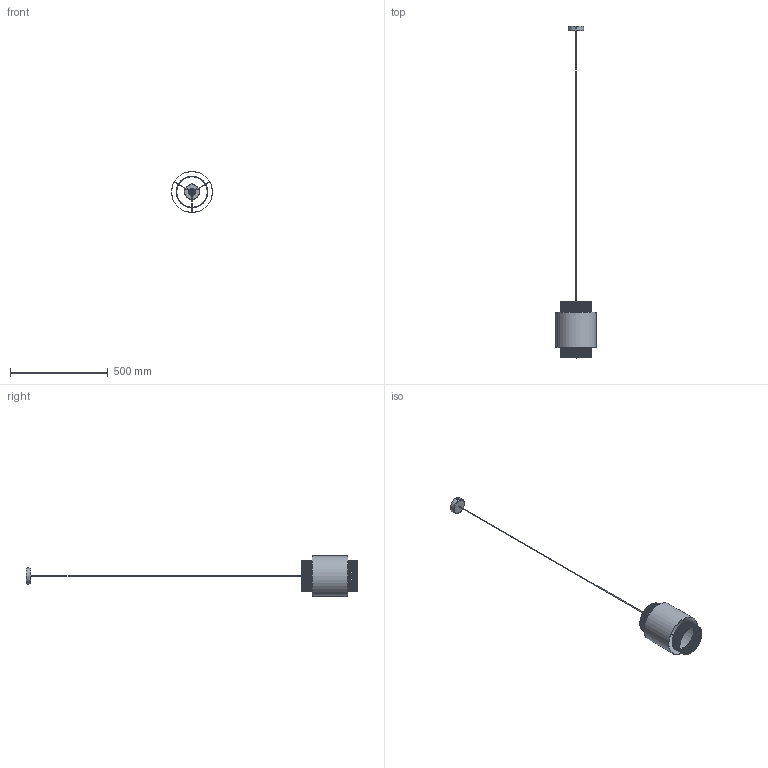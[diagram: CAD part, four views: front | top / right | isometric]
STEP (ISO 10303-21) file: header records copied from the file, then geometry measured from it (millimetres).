
FILE_DESCRIPTION(/* description */ (''),/* implementation_level */ '2;1');
FILE_NAME(/* name */ 'C:/Users/kubaw/OneDrive/Pulpit/Nowy folder (3)/6540_BOHO v3.step',/* time_stamp */ '2021-12-11T10:58:53+01:00',/* author */ (''),/* organization */ (''),/* preprocessor_version */ 'ST-DEVELOPER v18.1',/* originating_system */ 'Autodesk Translation Framework v10.10.0.1391',/* authorisation */ '');
FILE_SCHEMA (('AUTOMOTIVE_DESIGN { 1 0 10303 214 3 1 1 }'));
Products named in the file (5): 6540_BOHO; MOCOWANIE_PAGLIA v3; MOCOWANIE_PAGLIA2 v2; KLOSZ_200_BOHO; ŚRUBA_B
Assembly tree (5 placements, depth 2):
  6540_BOHO
    MOCOWANIE_PAGLIA v3
    MOCOWANIE_PAGLIA2 v2
    KLOSZ_200_BOHO
    ŚRUBA_B  x2
Bounding box: 210 x 1700 x 210 mm (x, y, z)
Volume: 335968.3 mm3; surface area: 462742.3 mm2
Topology: 388 solids, 389 shells, 4012 faces, 9703 edges, 6471 vertices
Faces by surface type: cylinder 1448, plane 1377, bspline 1017, torus 90, cone 80
Full cylindrical faces by diameter (mm): 2 x9, 3.8 x1, 4 x7, 7.5 x2, 9.6 x2, 19.84 x1, 24.929 x10, 26.88 x1, 28.8 x3, 32 x1, 33 x1, 33.12 x1, 38 x1, 80 x1, 155.182 x4, 158.382 x4, 158.4 x20, 160 x20, 208 x1, 210 x1
Entity records: 261852 total; most frequent: CARTESIAN_POINT 174683, ORIENTED_EDGE 19297, DIRECTION 15661, EDGE_CURVE 9649, VERTEX_POINT 6435, AXIS2_PLACEMENT_3D 6275, EDGE_LOOP 4061, FACE_OUTER_BOUND 3990
